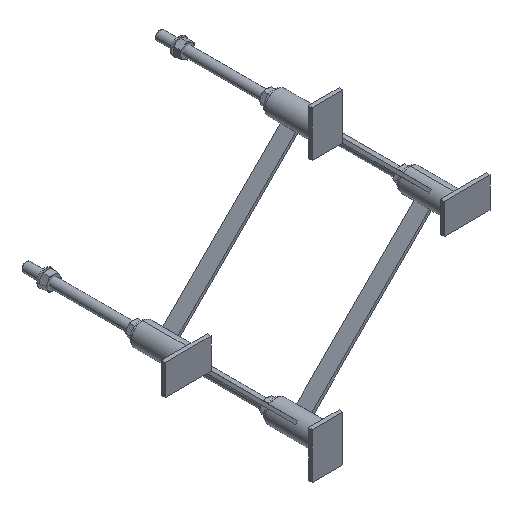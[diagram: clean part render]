
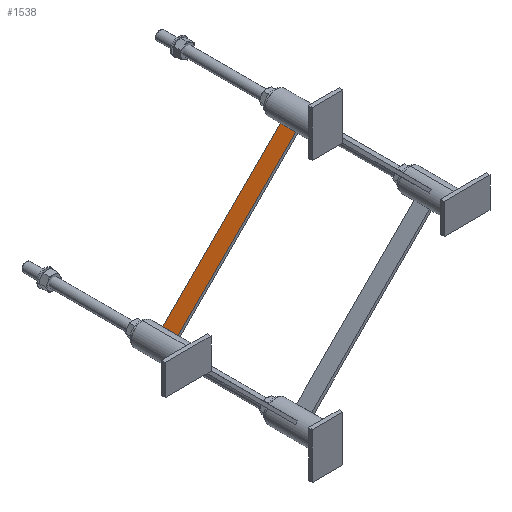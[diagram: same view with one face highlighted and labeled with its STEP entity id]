
A CAD part, isometric view. The second image highlights one B-rep face of the part: STEP entity #1538.
In plain terms, the highlighted planar face has unit normal (-0.707, 0, 0.707).
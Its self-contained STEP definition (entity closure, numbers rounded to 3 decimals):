
#483=DIRECTION('',(0.707,0.,0.707));
#484=VECTOR('',#483,435.208);
#485=CARTESIAN_POINT('',(-331.698,60.,23.959));
#486=LINE('',#485,#484);
#492=DIRECTION('',(0.707,0.,0.707));
#493=VECTOR('',#492,435.208);
#494=CARTESIAN_POINT('',(-331.698,100.,23.959));
#495=LINE('',#494,#493);
#505=DIRECTION('',(0.,-1.,0.));
#506=VECTOR('',#505,40.);
#507=CARTESIAN_POINT('',(-23.959,100.,331.698));
#508=LINE('',#507,#506);
#509=DIRECTION('',(0.,1.,0.));
#510=VECTOR('',#509,40.);
#511=CARTESIAN_POINT('',(-331.698,60.,23.959));
#512=LINE('',#511,#510);
#770=CARTESIAN_POINT('',(-23.959,60.,331.698));
#772=VERTEX_POINT('',#770);
#774=CARTESIAN_POINT('',(-23.959,100.,331.698));
#776=VERTEX_POINT('',#774);
#777=CARTESIAN_POINT('',(-331.698,60.,23.959));
#779=VERTEX_POINT('',#777);
#781=CARTESIAN_POINT('',(-331.698,100.,23.959));
#783=VERTEX_POINT('',#781);
#1525=CARTESIAN_POINT('',(-331.698,60.,23.959));
#1526=DIRECTION('',(-0.707,0.,0.707));
#1527=DIRECTION('',(0.707,0.,0.707));
#1528=AXIS2_PLACEMENT_3D('',#1525,#1526,#1527);
#1529=PLANE('',#1528);
#1531=ORIENTED_EDGE('',*,*,#1530,.T.);
#1532=ORIENTED_EDGE('',*,*,#1504,.F.);
#1534=ORIENTED_EDGE('',*,*,#1533,.T.);
#1535=ORIENTED_EDGE('',*,*,#1516,.T.);
#1536=EDGE_LOOP('',(#1531,#1532,#1534,#1535));
#1537=FACE_OUTER_BOUND('',#1536,.F.);
#1538=ADVANCED_FACE('',(#1537),#1529,.T.);
#1504=EDGE_CURVE('',#779,#772,#486,.T.);
#1516=EDGE_CURVE('',#783,#776,#495,.T.);
#1530=EDGE_CURVE('',#776,#772,#508,.T.);
#1533=EDGE_CURVE('',#779,#783,#512,.T.);
